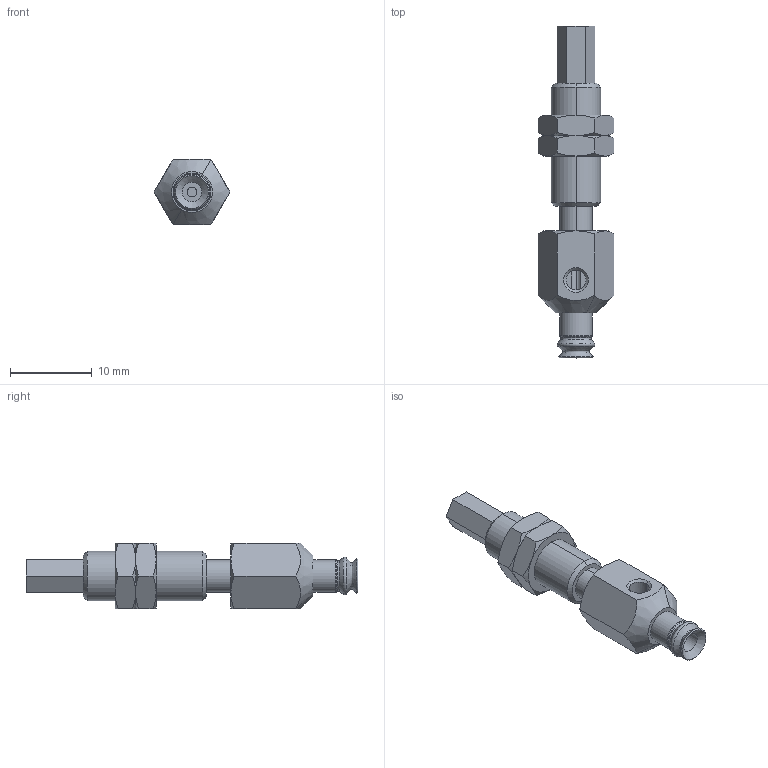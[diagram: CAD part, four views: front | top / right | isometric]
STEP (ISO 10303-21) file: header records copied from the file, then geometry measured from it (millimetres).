
FILE_DESCRIPTION(('STEP AP203'),'1');
FILE_NAME('.stp','2025-04-23T06:53:40',(' '),(' '),'Spatial InterOp 3D',' ',' ');
FILE_SCHEMA(('CONFIG_CONTROL_DESIGN'));
Length unit declared in the file: millimetre
Products named in the file (6): BNABPJYS-4-3-※; _Nut_1_5A_3_s; _CONNECTOR_1_5A_3; _NAPFTS_1_5A_3_FBODY; _NAPFTS_1_5A_3_MBODY; BPJG-4-※
Assembly tree (6 placements, depth 2):
  BNABPJYS-4-3-※
    _Nut_1_5A_3_s  x2
    _CONNECTOR_1_5A_3
    _NAPFTS_1_5A_3_FBODY
    _NAPFTS_1_5A_3_MBODY
    BPJG-4-※
Bounding box: 9.24 x 40.5 x 8 mm (x, y, z)
Volume: 1236.3 mm3; surface area: 1886.2 mm2
Topology: 6 solids, 6 shells, 152 faces, 337 edges, 201 vertices
Faces by surface type: cone 61, plane 55, cylinder 26, torus 10
Full cylindrical faces by diameter (mm): 2 x1, 2.4 x1, 3 x1, 4 x1
Entity records: 3721 total; most frequent: CARTESIAN_POINT 754, DIRECTION 579, ORIENTED_EDGE 508, EDGE_CURVE 254, AXIS2_PLACEMENT_3D 242, VERTEX_POINT 161, EDGE_LOOP 159, FACE_OUTER_BOUND 138
